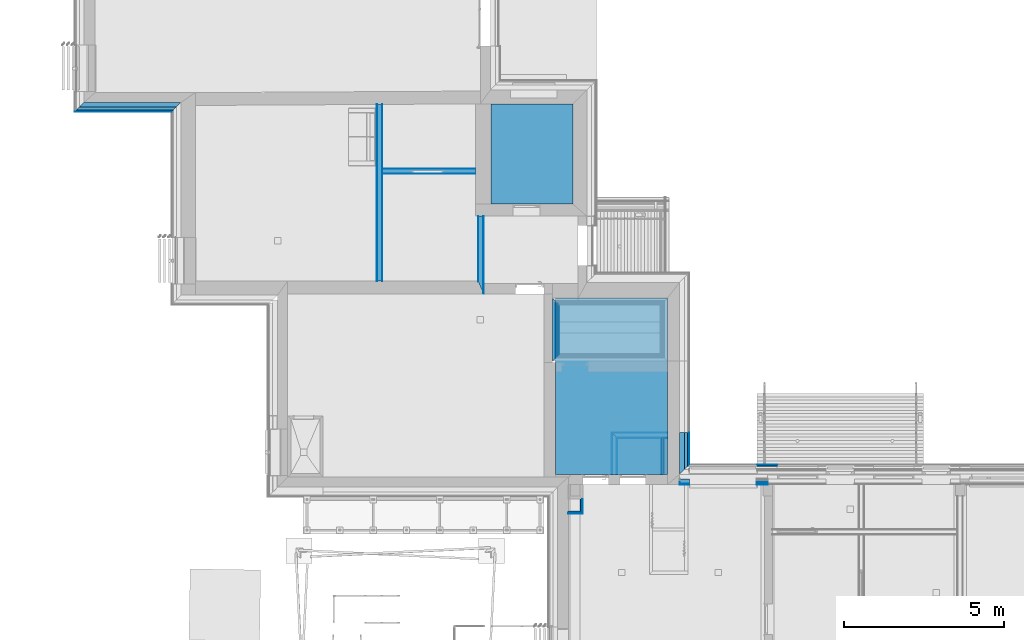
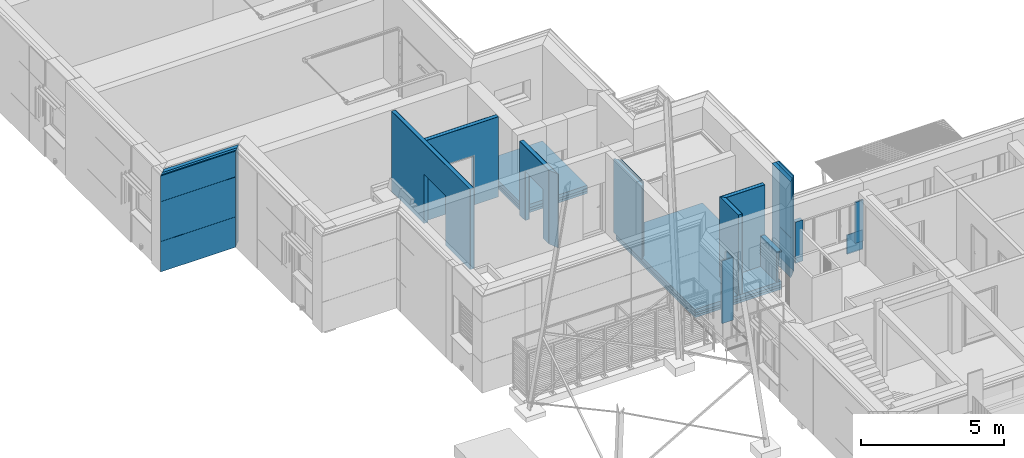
# One storey, part 33 of 418: 50 building element parts, 11 openings, 17 elements without a shape of their own.
"""IFC2X3 building model written with IfcOpenShell, lengths in millimetres."""

from ifc_helpers import new_model, entity, si_unit, converted_unit, derived_unit, money_unit, direction, frame, origin_with_axes, origin_2d_with_axis, place, context, subcontext, project, spatial, polyline, rectangle, outline, extrude, material, type_object, element, aggregate, save


model = new_model("IFC2X3")

# Units and contexts
model_context = context("Model", 3, precision=0.01, world=origin_with_axes(), true_north=direction((0.0, 1.0)))
body_context = subcontext(model_context, "Body", "Model", "MODEL_VIEW")
ifc_project = project(units=[si_unit("LENGTHUNIT", "METRE", prefix="MILLI"), si_unit("AREAUNIT", "SQUARE_METRE"), si_unit("VOLUMEUNIT", "CUBIC_METRE"), converted_unit("PLANEANGLEUNIT", "DEGREE", entity("IfcPlaneAngleMeasure", 0.0174532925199), si_unit("PLANEANGLEUNIT", "RADIAN"), dimensions=[0, 0, 0, 0, 0, 0, 0]), si_unit("SOLIDANGLEUNIT", "STERADIAN"), money_unit("EUR"), converted_unit("TIMEUNIT", "Year", entity("IfcTimeMeasure", 31556926.0), si_unit("TIMEUNIT", "SECOND"), dimensions=[0, 0, 1, 0, 0, 0, 0]), si_unit("MASSUNIT", "GRAM", prefix="KILO"), si_unit("THERMODYNAMICTEMPERATUREUNIT", "DEGREE_CELSIUS"), si_unit("LUMINOUSINTENSITYUNIT", "LUMEN"), si_unit("ENERGYUNIT", "JOULE", prefix="MEGA"), derived_unit("THERMALCONDUCTANCEUNIT", [(si_unit("POWERUNIT", "WATT"), 1), (si_unit("LENGTHUNIT", "METRE"), -1), (si_unit("THERMODYNAMICTEMPERATUREUNIT", "KELVIN"), -1)]), derived_unit("SPECIFICHEATCAPACITYUNIT", [(si_unit("ENERGYUNIT", "JOULE"), 1), (si_unit("MASSUNIT", "GRAM", prefix="KILO"), -1), (si_unit("THERMODYNAMICTEMPERATUREUNIT", "KELVIN"), -1)]), derived_unit("MASSDENSITYUNIT", [(si_unit("MASSUNIT", "GRAM", prefix="KILO"), 1), (si_unit("VOLUMEUNIT", "CUBIC_METRE"), -1)])], contexts=[model_context])

# Site, building, storey
site_placement = place(None, origin_with_axes())
site = spatial("IfcSite", under=ifc_project, at=site_placement, Name="Paldiski mnt 245/1, Tallinn, Harjumaa", CompositionType="COMPLEX")
building_placement = place(site_placement, origin_with_axes())
building = spatial("IfcBuilding", under=site, at=building_placement, Name="RKAS Hoone üldnimetus (kasutust iseloomustav) -> IFC Project Manager -> SOLIBRI", CompositionType="ELEMENT")
storey_placement = place(building_placement, origin_with_axes())
storey = spatial("IfcBuildingStorey", under=building, at=storey_placement, Name="Esimene korrus", CompositionType="ELEMENT", Elevation=0.0)

# Covering, building element parts
covering_type = type_object("IfcCoveringType", Name="VS-02_Cembrit_c040 50", PredefinedType="NOTDEFINED")
covering_placement = place(storey_placement, frame((-41134.0, 460.000000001, 0.999999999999), z_axis=(0.0, 0.0, 1.0), x_axis=(-1.0, 0.0, 0.0)))
covering = element("IfcCovering", 1, at=covering_placement, inside=storey, type_object=covering_type, Name="VS-02", PredefinedType="NOTDEFINED")
ifc_material_1 = material(Name="Cembrit_C040")
building_element_part_1_placement = place(covering_placement, origin_with_axes())
building_element_part_1 = element("IfcBuildingElementPart", 2, at=building_element_part_1_placement, material=ifc_material_1, Name="Cembrit_C040", context=body_context, shape_type="SweptSolid", body=[
    extrude(outline(polyline([(0.0, -50.0), (626.55032631, -50.0), (626.55032631, -42.0), (0.0, -42.0), (0.0, -50.0)])), origin_with_axes(), (0.0, 0.0, 1.0), 810.0),
])
ifc_material_2 = material(Name="VKR-06_Õhkvahe")
building_element_part_2_placement = place(covering_placement, origin_with_axes())
building_element_part_2 = element("IfcBuildingElementPart", 3, at=building_element_part_2_placement, material=ifc_material_2, Name="VKR-06_Õhkvahe", context=body_context, shape_type="SweptSolid", body=[
    extrude(outline(polyline([(0.0, -42.0), (626.55032631, -42.0), (626.55032631, 0.0), (0.0, 0.0), (0.0, -42.0)])), origin_with_axes(), (0.0, 0.0, 1.0), 810.0),
])
aggregate(covering, [building_element_part_1, building_element_part_2])

# Slab, building element parts
slab_type = type_object("IfcSlabType", Name="AP-01 350", PredefinedType="NOTDEFINED")
slab_1_placement = place(storey_placement, frame((-50059.9975866, 8630.0, 0.0), z_axis=(0.0, 0.0, 1.0), x_axis=(1.0, 0.0, 0.0)))
slab_1 = element("IfcSlab", 4, at=slab_1_placement, inside=storey, type_object=slab_type, Name="AP-01", PredefinedType="NOTDEFINED")
ifc_material_3 = material(Name="EPS 200")
building_element_part_3_placement = place(slab_1_placement, origin_with_axes())
building_element_part_3 = element("IfcBuildingElementPart", 5, at=building_element_part_3_placement, material=ifc_material_3, Name="EPS 200", context=body_context, shape_type="SweptSolid", body=[
    extrude(outline(polyline([(0.0, 0.0), (2549.99758656, 0.0), (2549.99758656, 3121.6805053), (0.0, 3121.6805053), (0.0, 0.0)])), frame((0.0, 0.0, -350.0), z_axis=(0.0, 0.0, 1.0), x_axis=(1.0, 0.0, 0.0)), (0.0, 0.0, 1.0), 100.0),
])
building_element_part_4_placement = place(slab_1_placement, origin_with_axes())
building_element_part_4 = element("IfcBuildingElementPart", 6, at=building_element_part_4_placement, material=ifc_material_3, Name="EPS 200", context=body_context, shape_type="SweptSolid", body=[
    extrude(outline(polyline([(0.0, 0.0), (2549.99758656, 0.0), (2549.99758656, 3121.6805053), (0.0, 3121.6805053), (0.0, 0.0)])), frame((0.0, 0.0, -250.0), z_axis=(0.0, 0.0, 1.0), x_axis=(1.0, 0.0, 0.0)), (0.0, 0.0, 1.0), 100.0),
])
ifc_material_4 = material(Name="Kiudbetoon")
building_element_part_5_placement = place(slab_1_placement, origin_with_axes())
building_element_part_5 = element("IfcBuildingElementPart", 7, at=building_element_part_5_placement, material=ifc_material_4, Name="Kiudbetoon", context=body_context, shape_type="SweptSolid", body=[
    extrude(outline(polyline([(0.0, 0.0), (2549.99758656, 0.0), (2549.99758656, 3121.6805053), (0.0, 3121.6805053), (0.0, 0.0)])), frame((0.0, 0.0, -150.0), z_axis=(0.0, 0.0, 1.0), x_axis=(1.0, 0.0, 0.0)), (0.0, 0.0, 1.0), 150.0),
])
aggregate(slab_1, [building_element_part_3, building_element_part_4, building_element_part_5])

slab_2_placement = place(storey_placement, frame((-48040.0, 210.000000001, 0.0), z_axis=(0.0, 0.0, 1.0), x_axis=(1.0, 0.0, 0.0)))
slab_2 = element("IfcSlab", 8, at=slab_2_placement, inside=storey, type_object=slab_type, Name="AP-01", PredefinedType="NOTDEFINED")
building_element_part_6_placement = place(slab_2_placement, origin_with_axes())
building_element_part_6 = element("IfcBuildingElementPart", 9, at=building_element_part_6_placement, material=ifc_material_3, Name="EPS 200", context=body_context, shape_type="SweptSolid", body=[
    extrude(outline(polyline([(0.0, 0.0), (3479.44954137, 0.0), (3479.44954137, 5489.82872435), (1.27897692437e-10, 5489.82872435), (0.0, 0.0)])), frame((0.0, 0.0, -350.0), z_axis=(0.0, 0.0, 1.0), x_axis=(1.0, 0.0, 0.0)), (0.0, 0.0, 1.0), 100.0),
])
building_element_part_7_placement = place(slab_2_placement, origin_with_axes())
building_element_part_7 = element("IfcBuildingElementPart", 10, at=building_element_part_7_placement, material=ifc_material_3, Name="EPS 200", context=body_context, shape_type="SweptSolid", body=[
    extrude(outline(polyline([(0.0, 0.0), (3479.44954137, 0.0), (3479.44954137, 5489.82872435), (1.27897692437e-10, 5489.82872435), (0.0, 0.0)])), frame((0.0, 0.0, -250.0), z_axis=(0.0, 0.0, 1.0), x_axis=(1.0, 0.0, 0.0)), (0.0, 0.0, 1.0), 100.0),
])
building_element_part_8_placement = place(slab_2_placement, origin_with_axes())
building_element_part_8 = element("IfcBuildingElementPart", 11, at=building_element_part_8_placement, material=ifc_material_4, Name="Kiudbetoon", context=body_context, shape_type="SweptSolid", body=[
    extrude(outline(polyline([(0.0, 0.0), (3479.44954137, 0.0), (3479.44954137, 5489.82872435), (1.27897692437e-10, 5489.82872435), (0.0, 0.0)])), frame((0.0, 0.0, -150.0), z_axis=(0.0, 0.0, 1.0), x_axis=(1.0, 0.0, 0.0)), (0.0, 0.0, 1.0), 150.0),
])
aggregate(slab_2, [building_element_part_6, building_element_part_7, building_element_part_8])

# Wall, opening, building element parts
wall_type_1 = type_object("IfcWallType", Name="SS-04 170", PredefinedType="NOTDEFINED")
wall_1_placement = place(storey_placement, frame((-53609.9975509, 9565.96823134, 0.0), z_axis=(0.0, 0.0, 1.0), x_axis=(1.0, 0.0, 0.0)))
wall_1 = element("IfcWall", 12, at=wall_1_placement, inside=storey, type_object=wall_type_1, Name="SS-04")
opening_1_placement = place(wall_1_placement, frame((1569.99998215, 0.0, 0.0), z_axis=(0.0, 0.0, 1.0), x_axis=(1.0, 0.0, 0.0)))
element("IfcOpeningElement", 13, at=opening_1_placement, cuts=wall_1, Name="SU-11p", context=body_context, shape_type="SweptSolid", body=[
    extrude(rectangle(XDim=1000.0, YDim=2100.0, at=origin_2d_with_axis()), frame((0.0, 170.0, 1050.0), z_axis=(0.0, 1.0, 0.0), x_axis=(1.0, 0.0, 0.0)), (0.0, 0.0, -1.0), 510.0),
    extrude(rectangle(XDim=1074.0, YDim=2137.0, at=origin_2d_with_axis()), frame((0.0, 170.0, 1068.5), z_axis=(0.0, 1.0, 0.0), x_axis=(1.0, 0.0, 0.0)), (0.0, 0.0, 1.0), 170.0),
    extrude(rectangle(XDim=1074.0, YDim=2137.0, at=origin_2d_with_axis()), frame((0.0, 0.0, 1068.5), z_axis=(0.0, -1.0, 0.0), x_axis=(1.0, 0.0, 0.0)), (0.0, 0.0, 1.0), 170.0),
])
ifc_material_5 = material(Name="Krohv")
building_element_part_9_placement = place(wall_1_placement, origin_with_axes())
building_element_part_9 = element("IfcBuildingElementPart", 14, at=building_element_part_9_placement, material=ifc_material_5, Name="Krohv", context=body_context, shape_type="SweptSolid", body=[
    extrude(outline(polyline([(170.0, 0.0), (3069.9999643, 0.0), (3069.9999643, 10.0), (170.0, 10.0), (170.0, 0.0)])), origin_with_axes(), (0.0, 0.0, 1.0), 3411.80696097),
])
ifc_material_6 = material(Name="FIBO 5")
building_element_part_10_placement = place(wall_1_placement, origin_with_axes())
building_element_part_10 = element("IfcBuildingElementPart", 15, at=building_element_part_10_placement, material=ifc_material_6, Name="FIBO 5", context=body_context, shape_type="SweptSolid", body=[
    extrude(outline(polyline([(170.0, 10.0), (3069.9999643, 10.0), (3069.9999643, 160.0), (170.0, 160.0), (170.0, 10.0)])), origin_with_axes(), (0.0, 0.0, 1.0), 3411.80696097),
])
building_element_part_11_placement = place(wall_1_placement, origin_with_axes())
building_element_part_11 = element("IfcBuildingElementPart", 16, at=building_element_part_11_placement, material=ifc_material_5, Name="Krohv", context=body_context, shape_type="SweptSolid", body=[
    extrude(outline(polyline([(170.0, 160.0), (3069.9999643, 160.0), (3069.9999643, 170.0), (170.0, 170.0), (170.0, 160.0)])), origin_with_axes(), (0.0, 0.0, 1.0), 3411.80696097),
])
aggregate(wall_1, [building_element_part_9, building_element_part_10, building_element_part_11])

# Wall, building element parts
wall_2_placement = place(storey_placement, frame((-44560.5504586, 1509.82872435, 0.0), z_axis=(0.0, 0.0, 1.0), x_axis=(-1.0, 0.0, 0.0)))
wall_2 = element("IfcWall", 17, at=wall_2_placement, inside=storey, type_object=wall_type_1, Name="SS-04")
building_element_part_12_placement = place(wall_2_placement, origin_with_axes())
building_element_part_12 = element("IfcBuildingElementPart", 18, at=building_element_part_12_placement, material=ifc_material_5, Name="Krohv", context=body_context, shape_type="SweptSolid", body=[
    extrude(outline(polyline([(0.0, 0.0), (1734.44954137, 0.0), (1724.44954137, 10.0), (0.0, 10.0), (0.0, 0.0)])), origin_with_axes(), (0.0, 0.0, 1.0), 3411.80696097),
])
building_element_part_13_placement = place(wall_2_placement, origin_with_axes())
building_element_part_13 = element("IfcBuildingElementPart", 19, at=building_element_part_13_placement, material=ifc_material_6, Name="FIBO 5", context=body_context, shape_type="SweptSolid", body=[
    extrude(outline(polyline([(0.0, 10.0), (1724.44954137, 10.0), (1574.44954137, 160.0), (0.0, 160.0), (0.0, 10.0)])), origin_with_axes(), (0.0, 0.0, 1.0), 3411.80696097),
])
building_element_part_14_placement = place(wall_2_placement, origin_with_axes())
building_element_part_14 = element("IfcBuildingElementPart", 20, at=building_element_part_14_placement, material=ifc_material_5, Name="Krohv", context=body_context, shape_type="SweptSolid", body=[
    extrude(outline(polyline([(0.0, 160.0), (1574.44954137, 160.0), (1564.44954137, 170.0), (0.0, 170.0), (0.0, 160.0)])), origin_with_axes(), (0.0, 0.0, 1.0), 3411.80696097),
])
aggregate(wall_2, [building_element_part_12, building_element_part_13, building_element_part_14])

wall_3_placement = place(storey_placement, frame((-46295.0, 1509.82872435, 0.0), z_axis=(0.0, 0.0, 1.0), x_axis=(0.0, -1.0, 0.0)))
wall_3 = element("IfcWall", 21, at=wall_3_placement, inside=storey, type_object=wall_type_1, Name="SS-04")
building_element_part_15_placement = place(wall_3_placement, origin_with_axes())
building_element_part_15 = element("IfcBuildingElementPart", 22, at=building_element_part_15_placement, material=ifc_material_5, Name="Krohv", context=body_context, shape_type="SweptSolid", body=[
    extrude(outline(polyline([(0.0, 0.0), (1299.82872435, 0.0), (1299.82872435, 10.0), (10.0, 10.0), (0.0, 0.0)])), origin_with_axes(), (0.0, 0.0, 1.0), 3411.80696097),
])
building_element_part_16_placement = place(wall_3_placement, origin_with_axes())
building_element_part_16 = element("IfcBuildingElementPart", 23, at=building_element_part_16_placement, material=ifc_material_6, Name="FIBO 5", context=body_context, shape_type="SweptSolid", body=[
    extrude(outline(polyline([(10.0, 10.0), (1299.82872435, 10.0), (1299.82872435, 160.0), (160.0, 160.0), (10.0, 10.0)])), origin_with_axes(), (0.0, 0.0, 1.0), 3411.80696097),
])
building_element_part_17_placement = place(wall_3_placement, origin_with_axes())
building_element_part_17 = element("IfcBuildingElementPart", 24, at=building_element_part_17_placement, material=ifc_material_5, Name="Krohv", context=body_context, shape_type="SweptSolid", body=[
    extrude(outline(polyline([(160.0, 160.0), (1299.82872435, 160.0), (1299.82872435, 170.0), (170.0, 170.0), (160.0, 160.0)])), origin_with_axes(), (0.0, 0.0, 1.0), 3411.80696097),
])
aggregate(wall_3, [building_element_part_15, building_element_part_16, building_element_part_17])

wall_type_2 = type_object("IfcWallType", Name="SS-12 sisekihid 207", PredefinedType="NOTDEFINED")
wall_4_placement = place(storey_placement, frame((-47933.0, 5493.0, 0.0), z_axis=(0.0, 0.0, 1.0), x_axis=(0.0, -1.0, 0.0)))
wall_4 = element("IfcWall", 25, at=wall_4_placement, inside=storey, type_object=wall_type_2, Name="SS-12")
ifc_material_7 = material(Name="Isover Premium 33")
building_element_part_18_placement = place(wall_4_placement, origin_with_axes())
building_element_part_18 = element("IfcBuildingElementPart", 26, at=building_element_part_18_placement, material=ifc_material_7, Name="Isover Premium 33", context=body_context, shape_type="SweptSolid", body=[
    extrude(outline(polyline([(-207.0, -207.0), (1753.17127565, -207.0), (1653.17127565, -107.0), (-107.0, -107.0), (-207.0, -207.0)])), origin_with_axes(), (0.0, 0.0, 1.0), 3141.80696097),
])
ifc_material_8 = material(Name="Isover Sauna")
building_element_part_19_placement = place(wall_4_placement, origin_with_axes())
building_element_part_19 = element("IfcBuildingElementPart", 27, at=building_element_part_19_placement, material=ifc_material_8, Name="Isover Sauna", context=body_context, shape_type="SweptSolid", body=[
    extrude(outline(polyline([(-107.0, -107.0), (1653.17127565, -107.0), (1628.17127565, -82.0), (-82.0, -82.0), (-107.0, -107.0)])), origin_with_axes(), (0.0, 0.0, 1.0), 3141.80696097),
])
ifc_material_9 = material(Name="Õhkvahe/horisontpuitroov")
building_element_part_20_placement = place(wall_4_placement, origin_with_axes())
building_element_part_20 = element("IfcBuildingElementPart", 28, at=building_element_part_20_placement, material=ifc_material_9, Name="Õhkvahe/horisontpuitroov", context=body_context, shape_type="SweptSolid", body=[
    extrude(outline(polyline([(-82.0, -82.0), (1628.17127565, -82.0), (1596.17127565, -50.0), (-50.0, -50.0), (-82.0, -82.0)])), origin_with_axes(), (0.0, 0.0, 1.0), 3141.80696097),
])
ifc_material_10 = material(Name="Õhkvahe/vertpuitroov")
building_element_part_21_placement = place(wall_4_placement, origin_with_axes())
building_element_part_21 = element("IfcBuildingElementPart", 29, at=building_element_part_21_placement, material=ifc_material_10, Name="Õhkvahe/vertpuitroov", context=body_context, shape_type="SweptSolid", body=[
    extrude(outline(polyline([(-50.0, -50.0), (1596.17127565, -50.0), (1564.17127565, -18.0), (-18.0, -18.0), (-50.0, -50.0)])), origin_with_axes(), (0.0, 0.0, 1.0), 3141.80696097),
])
ifc_material_11 = material(Name="Sauna puitlaudis")
building_element_part_22_placement = place(wall_4_placement, origin_with_axes())
building_element_part_22 = element("IfcBuildingElementPart", 30, at=building_element_part_22_placement, material=ifc_material_11, Name="Sauna puitlaudis", context=body_context, shape_type="SweptSolid", body=[
    extrude(outline(polyline([(-18.0, -18.0), (1564.17127565, -18.0), (1546.17127565, 0.0), (0.0, 0.0), (-18.0, -18.0)])), origin_with_axes(), (0.0, 0.0, 1.0), 3141.80696097),
])
aggregate(wall_4, [building_element_part_18, building_element_part_19, building_element_part_20, building_element_part_21, building_element_part_22])

# Wall, opening, building element parts
wall_5_placement = place(storey_placement, frame((-50290.0, 6230.0, 0.0), z_axis=(0.0, 0.0, 1.0), x_axis=(0.0, 1.0, 0.0)))
wall_5 = element("IfcWall", 31, at=wall_5_placement, inside=storey, type_object=wall_type_1, Name="SS-04")
opening_2_placement = place(wall_5_placement, frame((994.828724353, 0.0, 0.0), z_axis=(0.0, 0.0, 1.0), x_axis=(1.0, 0.0, 0.0)))
element("IfcOpeningElement", 32, at=opening_2_placement, cuts=wall_5, Name="SU-10v", context=body_context, shape_type="SweptSolid", body=[
    extrude(rectangle(XDim=1250.0, YDim=2100.0, at=origin_2d_with_axis()), frame((0.0, 170.0, 1050.0), z_axis=(0.0, -1.0, 0.0), x_axis=(-1.0, 0.0, 0.0)), (0.0, 0.0, 1.0), 510.0),
])
building_element_part_23_placement = place(wall_5_placement, origin_with_axes())
building_element_part_23 = element("IfcBuildingElementPart", 33, at=building_element_part_23_placement, material=ifc_material_5, Name="Krohv", context=body_context, shape_type="SweptSolid", body=[
    extrude(outline(polyline([(-400.0, 0.0), (2020.0, 0.0), (2020.0, 10.0), (-376.470588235, 9.99999999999), (-400.0, 0.0)])), origin_with_axes(), (0.0, 0.0, 1.0), 3141.80696097),
])
building_element_part_24_placement = place(wall_5_placement, origin_with_axes())
building_element_part_24 = element("IfcBuildingElementPart", 34, at=building_element_part_24_placement, material=ifc_material_6, Name="FIBO 5", context=body_context, shape_type="SweptSolid", body=[
    extrude(outline(polyline([(-376.470588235, 9.99999999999), (2020.0, 10.0), (2020.0, 160.0), (-23.5294117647, 160.0), (-376.470588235, 9.99999999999)])), origin_with_axes(), (0.0, 0.0, 1.0), 3141.80696097),
])
building_element_part_25_placement = place(wall_5_placement, origin_with_axes())
building_element_part_25 = element("IfcBuildingElementPart", 35, at=building_element_part_25_placement, material=ifc_material_5, Name="Krohv", context=body_context, shape_type="SweptSolid", body=[
    extrude(outline(polyline([(-23.5294117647, 160.0), (2020.0, 160.0), (2020.0, 170.0), (0.0, 170.0), (-23.5294117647, 160.0)])), origin_with_axes(), (0.0, 0.0, 1.0), 3141.80696097),
])
aggregate(wall_5, [building_element_part_23, building_element_part_24, building_element_part_25])

wall_6_placement = place(storey_placement, frame((-53609.9975509, 11731.6917668, 0.0), z_axis=(0.0, 0.0, 1.0), x_axis=(0.0, -1.0, 0.0)))
wall_6 = element("IfcWall", 36, at=wall_6_placement, inside=storey, type_object=wall_type_1, Name="SS-04")
opening_3_placement = place(wall_6_placement, frame((3021.72353542, 0.0, 0.0), z_axis=(0.0, 0.0, 1.0), x_axis=(1.0, 0.0, 0.0)))
element("IfcOpeningElement", 37, at=opening_3_placement, cuts=wall_6, Name="Siseuks", context=body_context, shape_type="SweptSolid", body=[
    extrude(rectangle(XDim=1500.0, YDim=2100.0, at=origin_2d_with_axis()), frame((0.0, 0.0, 1050.0), z_axis=(0.0, 1.0, 0.0), x_axis=(1.0, 0.0, 0.0)), (0.0, 0.0, -1.0), 170.0),
    extrude(rectangle(XDim=1500.0, YDim=2100.0, at=origin_2d_with_axis()), frame((0.0, 0.0, 1050.0), z_axis=(0.0, -1.0, 0.0), x_axis=(1.0, 0.0, 0.0)), (0.0, 0.0, -1.0), 170.0),
])
building_element_part_26_placement = place(wall_6_placement, origin_with_axes())
building_element_part_26 = element("IfcBuildingElementPart", 38, at=building_element_part_26_placement, material=ifc_material_5, Name="Krohv", context=body_context, shape_type="SweptSolid", body=[
    extrude(outline(polyline([(0.0, 0.0), (5501.69176676, 0.0), (5501.69176676, 10.0), (-0.0563063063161, 10.0), (0.0, 0.0)])), origin_with_axes(), (0.0, 0.0, 1.0), 3411.80696097),
])
building_element_part_27_placement = place(wall_6_placement, origin_with_axes())
building_element_part_27 = element("IfcBuildingElementPart", 39, at=building_element_part_27_placement, material=ifc_material_6, Name="FIBO 5", context=body_context, shape_type="SweptSolid", body=[
    extrude(outline(polyline([(-0.0563063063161, 10.0), (5501.69176676, 10.0), (5501.69176676, 160.0), (-0.900900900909, 160.0), (-0.0563063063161, 10.0)])), origin_with_axes(), (0.0, 0.0, 1.0), 3411.80696097),
])
building_element_part_28_placement = place(wall_6_placement, origin_with_axes())
building_element_part_28 = element("IfcBuildingElementPart", 40, at=building_element_part_28_placement, material=ifc_material_5, Name="Krohv", context=body_context, shape_type="SweptSolid", body=[
    extrude(outline(polyline([(-0.900900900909, 160.0), (5501.69176676, 160.0), (5501.69176676, 170.0), (-0.957207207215, 170.0), (-0.900900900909, 160.0)])), origin_with_axes(), (0.0, 0.0, 1.0), 3411.80696097),
])
aggregate(wall_6, [building_element_part_26, building_element_part_27, building_element_part_28])

# Wall, building element parts
wall_type_3 = type_object("IfcWallType", Name="Sahti sein 75", PredefinedType="NOTDEFINED")
wall_7_placement = place(storey_placement, frame((-47195.0000049, -564.999999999, 0.0), z_axis=(0.0, 0.0, 1.0), x_axis=(0.0, -1.0, 0.0)))
wall_7 = element("IfcWall", 41, at=wall_7_placement, inside=storey, type_object=wall_type_3, Name="Sahti sein")
ifc_material_12 = material(Name="SOJ-03_Soojustus - Mineraal Pehme")
building_element_part_29_placement = place(wall_7_placement, origin_with_axes())
building_element_part_29 = element("IfcBuildingElementPart", 42, at=building_element_part_29_placement, material=ifc_material_12, Name="SOJ-03_Soojustus - Mineraal Pehme", context=body_context, shape_type="SweptSolid", body=[
    extrude(outline(polyline([(0.0, -75.0), (375.0, -75.0), (425.0, -25.0), (0.0, -25.0), (0.0, -75.0)])), origin_with_axes(), (0.0, 0.0, 1.0), 2670.0),
])
ifc_material_13 = material(Name="Kipsplaat Knauf GKF vm")
building_element_part_30_placement = place(wall_7_placement, origin_with_axes())
building_element_part_30 = element("IfcBuildingElementPart", 43, at=building_element_part_30_placement, material=ifc_material_13, Name="Kipsplaat Knauf GKF vm", context=body_context, shape_type="SweptSolid", body=[
    extrude(outline(polyline([(0.0, -25.0), (425.0, -25.0), (437.5, -12.5), (0.0, -12.5), (0.0, -25.0)])), origin_with_axes(), (0.0, 0.0, 1.0), 2670.0),
])
building_element_part_31_placement = place(wall_7_placement, origin_with_axes())
building_element_part_31 = element("IfcBuildingElementPart", 44, at=building_element_part_31_placement, material=ifc_material_13, Name="Kipsplaat Knauf GKF vm", context=body_context, shape_type="SweptSolid", body=[
    extrude(outline(polyline([(0.0, -12.5), (437.5, -12.5), (450.0, 0.0), (0.0, 0.0), (0.0, -12.5)])), origin_with_axes(), (0.0, 0.0, 1.0), 2670.0),
])
aggregate(wall_7, [building_element_part_29, building_element_part_30, building_element_part_31])

wall_8_placement = place(storey_placement, frame((-47195.0000049, -1015.0, 0.0), z_axis=(0.0, 0.0, 1.0), x_axis=(-1.0, 0.0, 0.0)))
wall_8 = element("IfcWall", 45, at=wall_8_placement, inside=storey, type_object=wall_type_3, Name="Sahti sein")
building_element_part_32_placement = place(wall_8_placement, origin_with_axes())
building_element_part_32 = element("IfcBuildingElementPart", 46, at=building_element_part_32_placement, material=ifc_material_12, Name="SOJ-03_Soojustus - Mineraal Pehme", context=body_context, shape_type="SweptSolid", body=[
    extrude(outline(polyline([(75.0, -75.0), (454.999995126, -75.0), (454.999995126, -25.0), (25.0, -25.0), (75.0, -75.0)])), origin_with_axes(), (0.0, 0.0, 1.0), 2670.0),
])
building_element_part_33_placement = place(wall_8_placement, origin_with_axes())
building_element_part_33 = element("IfcBuildingElementPart", 47, at=building_element_part_33_placement, material=ifc_material_13, Name="Kipsplaat Knauf GKF vm", context=body_context, shape_type="SweptSolid", body=[
    extrude(outline(polyline([(25.0, -25.0), (454.999995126, -25.0), (454.999995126, -12.5), (12.5, -12.5), (25.0, -25.0)])), origin_with_axes(), (0.0, 0.0, 1.0), 2670.0),
])
building_element_part_34_placement = place(wall_8_placement, origin_with_axes())
building_element_part_34 = element("IfcBuildingElementPart", 48, at=building_element_part_34_placement, material=ifc_material_13, Name="Kipsplaat Knauf GKF vm", context=body_context, shape_type="SweptSolid", body=[
    extrude(outline(polyline([(12.5, -12.5), (454.999995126, -12.5), (454.999995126, 0.0), (0.0, 0.0), (12.5, -12.5)])), origin_with_axes(), (0.0, 0.0, 1.0), 2670.0),
])
aggregate(wall_8, [building_element_part_32, building_element_part_33, building_element_part_34])

wall_type_4 = type_object("IfcWallType", Name="WC-tagasein 68", PredefinedType="NOTDEFINED")
wall_9_placement = place(storey_placement, frame((-44677.5504586, 1339.82872435, 0.0), z_axis=(0.0, 0.0, 1.0), x_axis=(0.0, -1.0, 0.0)))
wall_9 = element("IfcWall", 49, at=wall_9_placement, inside=storey, type_object=wall_type_4, Name="WC_tagasein")
ifc_material_14 = material(Name="SKR-01_Õhkvahe - Raam")
building_element_part_35_placement = place(wall_9_placement, origin_with_axes())
building_element_part_35 = element("IfcBuildingElementPart", 50, at=building_element_part_35_placement, material=ifc_material_14, Name="SKR-01_Õhkvahe - Raam", context=body_context, shape_type="SweptSolid", body=[
    extrude(outline(polyline([(0.0, -50.0), (1129.82872435, -50.0), (1129.82872435, 0.0), (0.0, 0.0), (0.0, -50.0)])), origin_with_axes(), (0.0, 0.0, 1.0), 1300.0),
])
ifc_material_15 = material(Name="SKR-04_Puitplaat")
building_element_part_36_placement = place(wall_9_placement, origin_with_axes())
building_element_part_36 = element("IfcBuildingElementPart", 51, at=building_element_part_36_placement, material=ifc_material_15, Name="SKR-04_Puitplaat", context=body_context, shape_type="SweptSolid", body=[
    extrude(outline(polyline([(0.0, -68.0), (1129.82872435, -68.0), (1129.82872435, -50.0), (0.0, -50.0), (0.0, -68.0)])), origin_with_axes(), (0.0, 0.0, 1.0), 1300.0),
])
aggregate(wall_9, [building_element_part_35, building_element_part_36])

wall_type_5 = type_object("IfcWallType", Name="VS-06.2_sisekiht 170", PredefinedType="NOTDEFINED")
wall_10_placement = place(storey_placement, frame((-44180.5503263, -110.709448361, 810.0), z_axis=(0.0, 0.0, 1.0), x_axis=(1.0, 0.0, 0.0)))
wall_10 = element("IfcWall", 52, at=wall_10_placement, inside=storey, type_object=wall_type_5, Name="VS-06.2")
ifc_material_16 = material(Name="BAUROC CLASSIC 3 MPa kergplokk")
building_element_part_37_placement = place(wall_10_placement, origin_with_axes())
building_element_part_37 = element("IfcBuildingElementPart", 53, at=building_element_part_37_placement, material=ifc_material_16, Name="BAUROC CLASSIC 3 MPa kergplokk", context=body_context, shape_type="SweptSolid", body=[
    extrude(outline(polyline([(0.0, 20.0), (300.020003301, 20.0), (300.020003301, 170.0), (0.0, 170.0), (0.0, 20.0)])), origin_with_axes(), (0.0, 0.0, 1.0), 1750.0),
])
ifc_material_17 = material(Name="Tasanduskrohv")
building_element_part_38_placement = place(wall_10_placement, origin_with_axes())
building_element_part_38 = element("IfcBuildingElementPart", 54, at=building_element_part_38_placement, material=ifc_material_17, Name="Tasanduskrohv", context=body_context, shape_type="SweptSolid", body=[
    extrude(outline(polyline([(0.0, 0.0), (300.020003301, 0.0), (300.020003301, 20.0), (0.0, 20.0), (0.0, 0.0)])), origin_with_axes(), (0.0, 0.0, 1.0), 1750.0),
])
aggregate(wall_10, [building_element_part_37, building_element_part_38])

# Wall, openings, building element parts
wall_type_6 = type_object("IfcWallType", Name="VS-03G_uued_kihid 300", PredefinedType="NOTDEFINED")
wall_11_placement = place(storey_placement, frame((-62730.0, 11799.8287244, 0.0), z_axis=(0.0, 0.0, 1.0), x_axis=(1.0, 0.0, 0.0)))
wall_11 = element("IfcWall", 55, at=wall_11_placement, inside=storey, type_object=wall_type_6, Name="VS-03")
opening_4_placement = place(wall_11_placement, frame((908.0, 0.0, 0.0), z_axis=(0.0, 0.0, 1.0), x_axis=(1.0, 0.0, 0.0)))
element("IfcOpeningElement", 56, at=opening_4_placement, cuts=wall_11, Name="Cembrit fassaadiplaadi vuuk", context=body_context, shape_type="SweptSolid", body=[
    extrude(outline(polyline([(-4.0, 0.0), (3.99999999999, 0.0), (3.99999999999, 4090.0), (-4.0, 4090.0), (-4.0, 0.0)])), frame((0.0, -292.0, 0.0), z_axis=(0.0, -1.0, 0.0), x_axis=(1.0, 0.0, 0.0)), (0.0, 0.0, 1.0), 308.0),
])
opening_5_placement = place(wall_11_placement, frame((2108.0, 0.0, 0.0), z_axis=(0.0, 0.0, 1.0), x_axis=(1.0, 0.0, 0.0)))
element("IfcOpeningElement", 57, at=opening_5_placement, cuts=wall_11, Name="Cembrit fassaadiplaadi vuuk", context=body_context, shape_type="SweptSolid", body=[
    extrude(outline(polyline([(-4.0, 0.0), (3.99999999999, 0.0), (3.99999999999, 4090.0), (-4.0, 4090.0), (-4.0, 0.0)])), frame((0.0, -292.0, 0.0), z_axis=(0.0, -1.0, 0.0), x_axis=(1.0, 0.0, 0.0)), (0.0, 0.0, 1.0), 308.0),
])
opening_6_placement = place(wall_11_placement, frame((1214.0, 0.0, 2990.0), z_axis=(0.0, 0.0, 1.0), x_axis=(1.0, 0.0, 0.0)))
element("IfcOpeningElement", 58, at=opening_6_placement, cuts=wall_11, Name="Cembrit fassaadiplaadi vuuk", context=body_context, shape_type="SweptSolid", body=[
    extrude(outline(polyline([(-1514.0, 0.0), (1514.0, 0.0), (1514.0, 8.0), (-1514.0, 8.0), (-1514.0, 0.0)])), frame((0.0, -292.0, 0.0), z_axis=(0.0, -1.0, 0.0), x_axis=(1.0, 0.0, 0.0)), (0.0, 0.0, 1.0), 308.0),
])
opening_7_placement = place(wall_11_placement, frame((1214.0, 0.0, 1290.0), z_axis=(0.0, 0.0, 1.0), x_axis=(1.0, 0.0, 0.0)))
element("IfcOpeningElement", 59, at=opening_7_placement, cuts=wall_11, Name="Cembrit fassaadiplaadi vuuk", context=body_context, shape_type="SweptSolid", body=[
    extrude(outline(polyline([(-1514.0, 0.0), (1514.0, 0.0), (1514.0, 8.0), (-1514.0, 8.0), (-1514.0, 0.0)])), frame((0.0, -292.0, 0.0), z_axis=(0.0, -1.0, 0.0), x_axis=(1.0, 0.0, 0.0)), (0.0, 0.0, 1.0), 308.0),
])
building_element_part_39_placement = place(wall_11_placement, origin_with_axes())
building_element_part_39 = element("IfcBuildingElementPart", 60, at=building_element_part_39_placement, material=ifc_material_1, Name="Cembrit_C040", context=body_context, shape_type="SweptSolid", body=[
    extrude(outline(polyline([(-300.0, -300.0), (2720.0, -300.0), (2728.0, -292.0), (-292.0, -292.0), (-300.0, -300.0)])), origin_with_axes(), (0.0, 0.0, 1.0), 4090.0),
])
building_element_part_40_placement = place(wall_11_placement, origin_with_axes())
building_element_part_40 = element("IfcBuildingElementPart", 61, at=building_element_part_40_placement, material=ifc_material_2, Name="VKR-06_Õhkvahe", context=body_context, shape_type="SweptSolid", body=[
    extrude(outline(polyline([(-292.0, -292.0), (2728.0, -292.0), (2770.0, -250.0), (-250.0, -250.0), (-292.0, -292.0)])), origin_with_axes(), (0.0, 0.0, 1.0), 4090.0),
])
ifc_material_18 = material(Name="Kingspan Kooltherm")
building_element_part_41_placement = place(wall_11_placement, origin_with_axes())
building_element_part_41 = element("IfcBuildingElementPart", 62, at=building_element_part_41_placement, material=ifc_material_18, Name="Kingspan Kooltherm", context=body_context, shape_type="SweptSolid", body=[
    extrude(outline(polyline([(-250.0, -250.0), (2770.0, -250.0), (2870.0, -150.0), (-150.0, -150.0), (-250.0, -250.0)])), origin_with_axes(), (0.0, 0.0, 1.0), 4090.0),
])
building_element_part_42_placement = place(wall_11_placement, origin_with_axes())
building_element_part_42 = element("IfcBuildingElementPart", 63, at=building_element_part_42_placement, material=ifc_material_18, Name="Kingspan Kooltherm", context=body_context, shape_type="SweptSolid", body=[
    extrude(outline(polyline([(-150.0, -150.0), (2870.0, -150.0), (3020.0, 0.0), (0.0, 0.0), (-150.0, -150.0)])), origin_with_axes(), (0.0, 0.0, 1.0), 4090.0),
])
aggregate(wall_11, [building_element_part_39, building_element_part_40, building_element_part_41, building_element_part_42])

wall_type_7 = type_object("IfcWallType", Name="VS-03M_uued_kihid 300", PredefinedType="NOTDEFINED")
wall_12_placement = place(storey_placement, frame((-44180.5504586, 210.000000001, 0.0), z_axis=(0.0, 0.0, 1.0), x_axis=(0.0, 1.0, 0.0)))
wall_12 = element("IfcWall", 64, at=wall_12_placement, inside=storey, type_object=wall_type_7, Name="VS-03")
opening_8_placement = place(wall_12_placement, frame((81.8287248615, 0.0, 0.0), z_axis=(0.0, 0.0, 1.0), x_axis=(1.0, 0.0, 0.0)))
element("IfcOpeningElement", 65, at=opening_8_placement, cuts=wall_12, Name="Cembrit fassaadiplaadi vuuk", context=body_context, shape_type="SweptSolid", body=[
    extrude(outline(polyline([(-3.99999999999, 0.0), (4.00000000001, 0.0), (4.00000000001, 4090.0), (-3.99999999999, 4090.0), (-3.99999999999, 0.0)])), frame((0.0, -292.0, 0.0), z_axis=(0.0, 1.0, 0.0), x_axis=(-1.0, 0.0, 0.0)), (0.0, 0.0, -1.0), 308.0),
])
opening_9_placement = place(wall_12_placement, frame((3179.91442158, 0.0, 2990.0), z_axis=(0.0, 0.0, 1.0), x_axis=(1.0, 0.0, 0.0)))
element("IfcOpeningElement", 66, at=opening_9_placement, cuts=wall_12, Name="Cembrit fassaadiplaadi vuuk", context=body_context, shape_type="SweptSolid", body=[
    extrude(outline(polyline([(-3099.91430278, 0.0), (3099.91430278, 0.0), (3099.91430278, 8.0), (-3099.91430278, 8.0), (-3099.91430278, 0.0)])), frame((0.0, -292.0, 0.0), z_axis=(0.0, 1.0, 0.0), x_axis=(-1.0, 0.0, 0.0)), (0.0, 0.0, -1.0), 308.0),
])
opening_10_placement = place(wall_12_placement, frame((3179.9144117, 0.0, 1298.0), z_axis=(0.0, 0.0, 1.0), x_axis=(1.0, 0.0, 0.0)))
element("IfcOpeningElement", 67, at=opening_10_placement, cuts=wall_12, Name="Cembrit fassaadiplaadi vuuk", context=body_context, shape_type="SweptSolid", body=[
    extrude(outline(polyline([(-3099.91431265, 0.0), (3099.91431265, 0.0), (3099.91431265, 8.0), (-3099.91431265, 8.0), (-3099.91431265, 0.0)])), frame((0.0, -292.0, 0.0), z_axis=(0.0, 1.0, 0.0), x_axis=(-1.0, 0.0, 0.0)), (0.0, 0.0, -1.0), 308.0),
])
ifc_material_19 = material(Name="Cembrit_C020")
building_element_part_43_placement = place(wall_12_placement, origin_with_axes())
building_element_part_43 = element("IfcBuildingElementPart", 68, at=building_element_part_43_placement, material=ifc_material_19, Name="Cembrit_C020", context=body_context, shape_type="SweptSolid", body=[
    extrude(outline(polyline([(300.0, -300.0), (1299.82872435, -300.0), (1299.82872435, -292.0), (292.0, -292.0), (300.0, -300.0)])), origin_with_axes(), (0.0, 0.0, 1.0), 4090.0),
])
building_element_part_44_placement = place(wall_12_placement, origin_with_axes())
building_element_part_44 = element("IfcBuildingElementPart", 69, at=building_element_part_44_placement, material=ifc_material_2, Name="VKR-06_Õhkvahe", context=body_context, shape_type="SweptSolid", body=[
    extrude(outline(polyline([(292.0, -292.0), (1299.82872435, -292.0), (1299.82872435, -250.0), (250.0, -250.0), (292.0, -292.0)])), origin_with_axes(), (0.0, 0.0, 1.0), 4090.0),
])
building_element_part_45_placement = place(wall_12_placement, origin_with_axes())
building_element_part_45 = element("IfcBuildingElementPart", 70, at=building_element_part_45_placement, material=ifc_material_18, Name="Kingspan Kooltherm", context=body_context, shape_type="SweptSolid", body=[
    extrude(outline(polyline([(250.0, -250.0), (1299.82872435, -250.0), (1299.82872435, -150.0), (150.0, -150.0), (250.0, -250.0)])), origin_with_axes(), (0.0, 0.0, 1.0), 4090.0),
])
building_element_part_46_placement = place(wall_12_placement, origin_with_axes())
building_element_part_46 = element("IfcBuildingElementPart", 71, at=building_element_part_46_placement, material=ifc_material_18, Name="Kingspan Kooltherm", context=body_context, shape_type="SweptSolid", body=[
    extrude(outline(polyline([(150.0, -150.0), (1299.82872435, -150.0), (1299.82872435, 0.0), (0.0, 0.0), (150.0, -150.0)])), origin_with_axes(), (0.0, 0.0, 1.0), 4090.0),
])
aggregate(wall_12, [building_element_part_43, building_element_part_44, building_element_part_45, building_element_part_46])

# Wall, opening, building element parts
wall_type_8 = type_object("IfcWallType", Name="VS-04_uued_sisekihid 63", PredefinedType="NOTDEFINED")
wall_13_placement = place(storey_placement, frame((-41440.0, -107.999999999, 810.0), z_axis=(0.0, 0.0, 1.0), x_axis=(-1.0, 0.0, 0.0)))
wall_13 = element("IfcWall", 72, at=wall_13_placement, inside=storey, type_object=wall_type_8, Name="VS-04")
opening_11_placement = place(wall_13_placement, frame((1530.55032631, 0.0, 0.0), z_axis=(0.0, 0.0, 1.0), x_axis=(1.0, 0.0, 0.0)))
element("IfcOpeningElement", 73, at=opening_11_placement, cuts=wall_13, Name="AVA", context=body_context, shape_type="SweptSolid", body=[
    extrude(rectangle(XDim=2400.0, YDim=1750.0, at=origin_2d_with_axis()), frame((0.0, 17.0, 875.0), z_axis=(0.0, 1.0, 0.0), x_axis=(1.0, 0.0, 0.0)), (0.0, 0.0, -1.0), 143.0),
    extrude(rectangle(XDim=2400.0, YDim=1750.0, at=origin_2d_with_axis()), frame((0.0, 17.0, 875.0), z_axis=(0.0, -1.0, 0.0), x_axis=(1.0, 0.0, 0.0)), (0.0, 0.0, -1.0), 143.0),
])
building_element_part_47_placement = place(wall_13_placement, origin_with_axes())
building_element_part_47 = element("IfcBuildingElementPart", 74, at=building_element_part_47_placement, material=ifc_material_2, Name="VKR-06_Õhkvahe", context=body_context, shape_type="SweptSolid", body=[
    extrude(outline(polyline([(0.0, -63.0), (2740.55032631, -63.0), (2740.55032631, -13.0), (0.0, -13.0), (0.0, -63.0)])), origin_with_axes(), (0.0, 0.0, 1.0), 1750.0),
])
building_element_part_48_placement = place(wall_13_placement, origin_with_axes())
building_element_part_48 = element("IfcBuildingElementPart", 75, at=building_element_part_48_placement, material=ifc_material_13, Name="Kipsplaat Knauf GKF vm", context=body_context, shape_type="SweptSolid", body=[
    extrude(outline(polyline([(0.0, -13.0), (2740.55032631, -13.0), (2740.55032631, 0.0), (0.0, 0.0), (0.0, -13.0)])), origin_with_axes(), (0.0, 0.0, 1.0), 1750.0),
])
aggregate(wall_13, [building_element_part_47, building_element_part_48])

# Proxy, building element parts
building_element_proxy_type = type_object("IfcBuildingElementProxyType", Name="WC-tagasein 68", PredefinedType="NOTDEFINED")
proxy_placement = place(storey_placement, frame((-44560.5504586, 210.000000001, 1237.0), z_axis=(0.0, 0.0, 1.0), x_axis=(1.0, 0.0, 0.0)))
proxy = element("IfcBuildingElementProxy", 76, at=proxy_placement, inside=storey, type_object=building_element_proxy_type, Name="WC-tagasein")
building_element_part_49_placement = place(proxy_placement, origin_with_axes())
building_element_part_49 = element("IfcBuildingElementPart", 77, at=building_element_part_49_placement, material=ifc_material_14, Name="SKR-01_Õhkvahe - Raam", context=body_context, shape_type="SweptSolid", body=[
    extrude(outline(polyline([(0.0, 0.0), (0.0, 1129.82872435), (-180.0, 1129.82872435), (-180.0, 0.0), (0.0, 0.0)])), origin_with_axes(), (0.0, 0.0, 1.0), 50.0),
])
building_element_part_50_placement = place(proxy_placement, origin_with_axes())
building_element_part_50 = element("IfcBuildingElementPart", 78, at=building_element_part_50_placement, material=ifc_material_15, Name="SKR-04_Puitplaat", context=body_context, shape_type="SweptSolid", body=[
    extrude(outline(polyline([(0.0, 0.0), (0.0, 1129.82872435), (-180.0, 1129.82872435), (-180.0, 0.0), (0.0, 0.0)])), frame((0.0, 0.0, 50.0), z_axis=(0.0, 0.0, 1.0), x_axis=(1.0, 0.0, 0.0)), (0.0, 0.0, 1.0), 18.0),
])
aggregate(proxy, [building_element_part_49, building_element_part_50])

save(model, "model.ifc")
